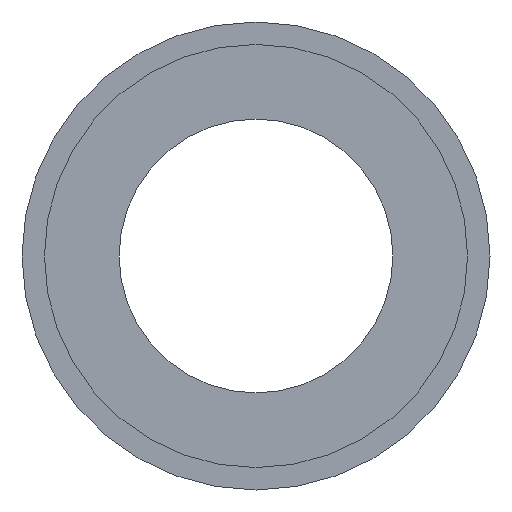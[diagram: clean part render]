
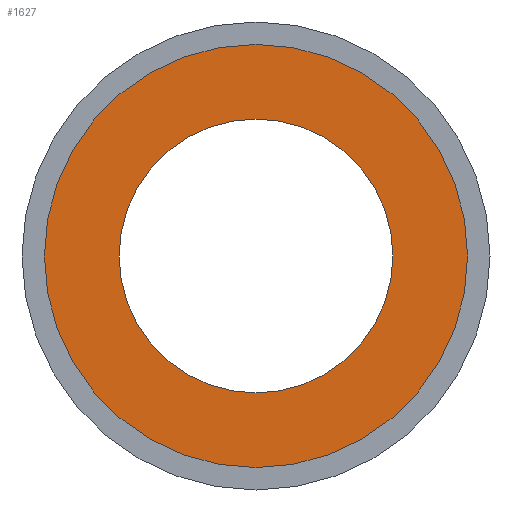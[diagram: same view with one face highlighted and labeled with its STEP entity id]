
A CAD part, front view. The second image highlights one B-rep face of the part: STEP entity #1627.
In plain terms, the highlighted planar face has unit normal (0, -1, 0).
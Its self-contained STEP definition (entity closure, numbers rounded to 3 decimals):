
#14 = CIRCLE ( 'NONE', #1966, 27.5 ) ;
#115 = CIRCLE ( 'NONE', #1577, 42.5 ) ;
#142 = DIRECTION ( 'NONE',  ( 0., 0., -1. ) ) ;
#177 = DIRECTION ( 'NONE',  ( 0., -1., 0. ) ) ;
#184 = EDGE_LOOP ( 'NONE', ( #214, #1380 ) ) ;
#214 = ORIENTED_EDGE ( 'NONE', *, *, #2870, .T. ) ;
#215 = DIRECTION ( 'NONE',  ( 0., 1., 0. ) ) ;
#238 = EDGE_CURVE ( 'NONE', #3060, #2307, #1131, .T. ) ;
#472 = CARTESIAN_POINT ( 'NONE',  ( 0., -16.5, 0. ) ) ;
#573 = ORIENTED_EDGE ( 'NONE', *, *, #238, .F. ) ;
#694 = CARTESIAN_POINT ( 'NONE',  ( 0., -16.5, 27.5 ) ) ;
#702 = EDGE_CURVE ( 'NONE', #1741, #3357, #115, .T. ) ;
#753 = DIRECTION ( 'NONE',  ( 0., 0., -1. ) ) ;
#781 = FACE_OUTER_BOUND ( 'NONE', #184, .T. ) ;
#960 = DIRECTION ( 'NONE',  ( 0., -1., 0. ) ) ;
#994 = DIRECTION ( 'NONE',  ( 0., 0., -1. ) ) ;
#1131 = CIRCLE ( 'NONE', #2494, 27.5 ) ;
#1380 = ORIENTED_EDGE ( 'NONE', *, *, #702, .T. ) ;
#1575 = CARTESIAN_POINT ( 'NONE',  ( 0., -16.5, 0. ) ) ;
#1577 = AXIS2_PLACEMENT_3D ( 'NONE', #3001, #177, #1638 ) ;
#1627 = ADVANCED_FACE ( 'NONE', ( #2416, #781 ), #3371, .F. ) ;
#1638 = DIRECTION ( 'NONE',  ( 0., 0., -1. ) ) ;
#1741 = VERTEX_POINT ( 'NONE', #2284 ) ;
#1783 = AXIS2_PLACEMENT_3D ( 'NONE', #3000, #2687, #142 ) ;
#1852 = ORIENTED_EDGE ( 'NONE', *, *, #2894, .F. ) ;
#1966 = AXIS2_PLACEMENT_3D ( 'NONE', #1575, #960, #994 ) ;
#2226 = CARTESIAN_POINT ( 'NONE',  ( 0., -16.5, 27.5 ) ) ;
#2284 = CARTESIAN_POINT ( 'NONE',  ( 0., -16.5, 42.5 ) ) ;
#2307 = VERTEX_POINT ( 'NONE', #694 ) ;
#2348 = EDGE_LOOP ( 'NONE', ( #573, #1852 ) ) ;
#2406 = CIRCLE ( 'NONE', #1783, 42.5 ) ;
#2416 = FACE_BOUND ( 'NONE', #2348, .T. ) ;
#2486 = DIRECTION ( 'NONE',  ( 0., -1., 0. ) ) ;
#2494 = AXIS2_PLACEMENT_3D ( 'NONE', #472, #2486, #753 ) ;
#2687 = DIRECTION ( 'NONE',  ( 0., -1., 0. ) ) ;
#2806 = AXIS2_PLACEMENT_3D ( 'NONE', #2226, #215, #3350 ) ;
#2870 = EDGE_CURVE ( 'NONE', #3357, #1741, #2406, .T. ) ;
#2894 = EDGE_CURVE ( 'NONE', #2307, #3060, #14, .T. ) ;
#3000 = CARTESIAN_POINT ( 'NONE',  ( 0., -16.5, 0. ) ) ;
#3001 = CARTESIAN_POINT ( 'NONE',  ( 0., -16.5, 0. ) ) ;
#3041 = CARTESIAN_POINT ( 'NONE',  ( 0., -16.5, -27.5 ) ) ;
#3060 = VERTEX_POINT ( 'NONE', #3041 ) ;
#3350 = DIRECTION ( 'NONE',  ( 0., 0., 1. ) ) ;
#3357 = VERTEX_POINT ( 'NONE', #3438 ) ;
#3371 = PLANE ( 'NONE',  #2806 ) ;
#3438 = CARTESIAN_POINT ( 'NONE',  ( 0., -16.5, -42.5 ) ) ;
